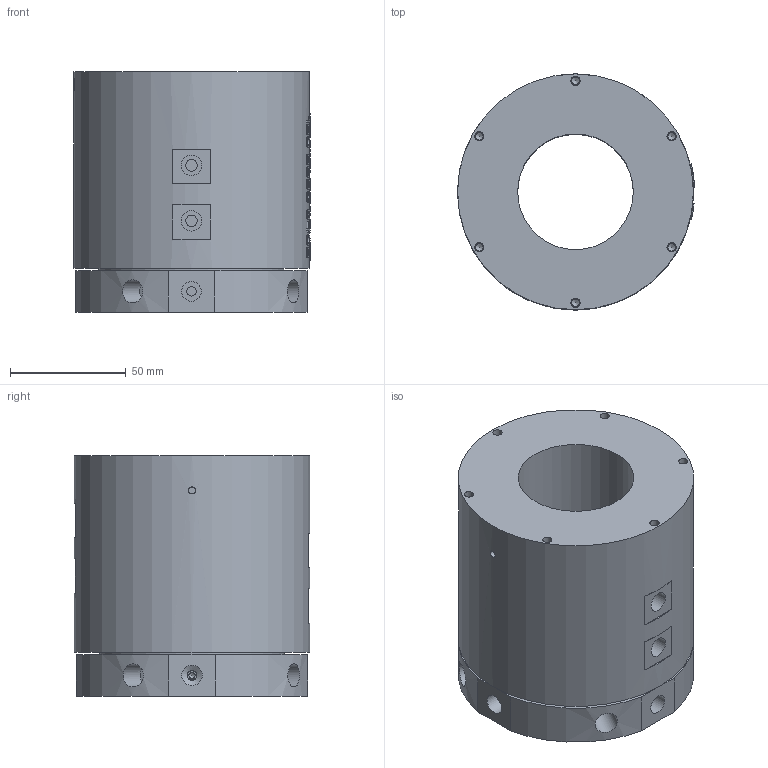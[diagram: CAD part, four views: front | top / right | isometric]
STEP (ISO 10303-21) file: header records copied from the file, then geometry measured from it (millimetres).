
FILE_DESCRIPTION(/* description */ (''),/* implementation_level */ '2;1');
FILE_NAME(/* name */ 'HQ0401D50.stp',/* time_stamp */ '2025-01-19T17:30:49+08:00',/* author */ (''),/* organization */ (''),/* preprocessor_version */ 'ST-DEVELOPER v16.7',/* originating_system */ 'SIEMENS PLM Software NX 12.0',/* authorisation */ '');
FILE_SCHEMA (('AUTOMOTIVE_DESIGN { 1 0 10303 214 3 1 1 1 }'));
Length unit declared in the file: millimetre
Products named in the file (1): HX0590E89F62buwz
Bounding box: 102.46 x 102 x 104 mm (x, y, z)
Volume: 627320.6 mm3; surface area: 75997.9 mm2
Topology: 1 solids, 1 shells, 453 faces, 1099 edges, 730 vertices
Faces by surface type: plane 238, extrusion 95, cylinder 73, bspline 29, cone 18
Full cylindrical faces by diameter (mm): 3.3 x6, 4 x10, 4.2 x8, 4.3 x2, 4.5 x4, 5 x4, 6.8 x4, 8.5 x2, 8.8 x6, 10 x4, 50 x1, 80 x1, 102 x1
Entity records: 32749 total; most frequent: CARTESIAN_POINT 23492, ORIENTED_EDGE 1998, DIRECTION 1399, EDGE_CURVE 999, VERTEX_POINT 724, B_SPLINE_CURVE_WITH_KNOTS 696, EDGE_LOOP 631, AXIS2_PLACEMENT_3D 576
